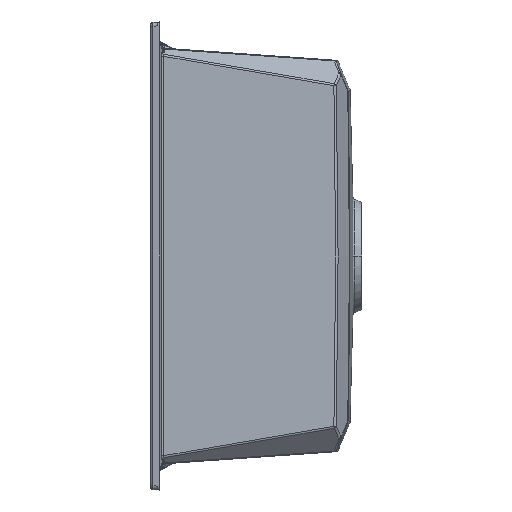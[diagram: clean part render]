
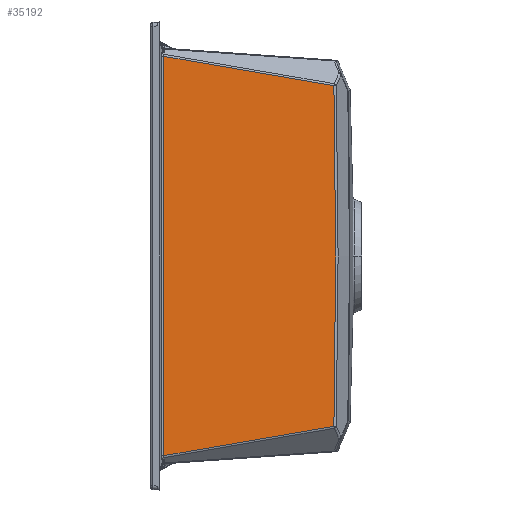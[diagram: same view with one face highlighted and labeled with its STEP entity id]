
A CAD part, left-side view. The second image highlights one B-rep face of the part: STEP entity #35192.
In plain terms, the highlighted planar face has unit normal (-0.998, -0.07, 0).
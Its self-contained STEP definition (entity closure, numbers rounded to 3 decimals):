
#1076 = VERTEX_POINT ( 'NONE', #8817 ) ;
#1368 = VERTEX_POINT ( 'NONE', #9465 ) ;
#3796 = LINE ( 'NONE', #22930, #26097 ) ;
#5487 = DIRECTION ( 'NONE',  ( -0.069, 0.983, -0.17 ) ) ;
#6251 = CARTESIAN_POINT ( 'NONE',  ( 27.019, 9.442, -465. ) ) ;
#6545 = DIRECTION ( 'NONE',  ( 0., 0., -1. ) ) ;
#7100 = AXIS2_PLACEMENT_3D ( 'NONE', #6251, #21026, #17837 ) ;
#7182 = EDGE_CURVE ( 'NONE', #19984, #1076, #3796, .T. ) ;
#7445 = ORIENTED_EDGE ( 'NONE', *, *, #8384, .F. ) ;
#8384 = EDGE_CURVE ( 'NONE', #1368, #19984, #33374, .T. ) ;
#8817 = CARTESIAN_POINT ( 'NONE',  ( 27.994, -4.492, -463.313 ) ) ;
#9465 = CARTESIAN_POINT ( 'NONE',  ( 40.693, -186.099, -68.033 ) ) ;
#10591 = EDGE_CURVE ( 'NONE', #16401, #1368, #30111, .T. ) ;
#11495 = CARTESIAN_POINT ( 'NONE',  ( 40.769, -187.192, -371.318 ) ) ;
#14655 = CARTESIAN_POINT ( 'NONE',  ( 40.769, -187.192, -128.683 ) ) ;
#16401 = VERTEX_POINT ( 'NONE', #22338 ) ;
#16713 = CARTESIAN_POINT ( 'NONE',  ( 40.826, -188.003, -189.339 ) ) ;
#17837 = DIRECTION ( 'NONE',  ( 0.07, -0.998, 0. ) ) ;
#18679 = EDGE_CURVE ( 'NONE', #16401, #1076, #37385, .T. ) ;
#19092 = FACE_OUTER_BOUND ( 'NONE', #20219, .T. ) ;
#19984 = VERTEX_POINT ( 'NONE', #31577 ) ;
#20219 = EDGE_LOOP ( 'NONE', ( #21498, #7445, #35676, #26632 ) ) ;
#21026 = DIRECTION ( 'NONE',  ( -0.998, -0.07, 0. ) ) ;
#21498 = ORIENTED_EDGE ( 'NONE', *, *, #7182, .F. ) ;
#22338 = CARTESIAN_POINT ( 'NONE',  ( 27.994, -4.492, -36.687 ) ) ;
#22930 = CARTESIAN_POINT ( 'NONE',  ( 27.464, 3.091, -464.622 ) ) ;
#23429 = CARTESIAN_POINT ( 'NONE',  ( 40.693, -186.099, -68.033 ) ) ;
#23975 = CARTESIAN_POINT ( 'NONE',  ( 27.994, -4.492, -465. ) ) ;
#25998 = DIRECTION ( 'NONE',  ( 0.069, -0.983, -0.17 ) ) ;
#26071 = CARTESIAN_POINT ( 'NONE',  ( 40.693, -186.099, -431.967 ) ) ;
#26097 = VECTOR ( 'NONE', #5487, 1000. ) ;
#26632 = ORIENTED_EDGE ( 'NONE', *, *, #18679, .T. ) ;
#29078 = CARTESIAN_POINT ( 'NONE',  ( 32.044, -62.41, -46.684 ) ) ;
#30111 = LINE ( 'NONE', #29078, #31465 ) ;
#31465 = VECTOR ( 'NONE', #25998, 1000. ) ;
#31577 = CARTESIAN_POINT ( 'NONE',  ( 40.693, -186.099, -431.967 ) ) ;
#31910 = CARTESIAN_POINT ( 'NONE',  ( 40.826, -188.003, -310.66 ) ) ;
#33374 = B_SPLINE_CURVE_WITH_KNOTS ( 'NONE', 3,
 ( #23429, #14655, #16713, #31910, #11495, #26071 ),
 .UNSPECIFIED., .F., .F.,
 ( 4, 2, 4 ),
 ( 0., 0.5, 1. ),
 .UNSPECIFIED. ) ;
#35192 = ADVANCED_FACE ( 'NONE', ( #19092 ), #35336, .T. ) ;
#35336 = PLANE ( 'NONE',  #7100 ) ;
#35554 = VECTOR ( 'NONE', #6545, 1000. ) ;
#35676 = ORIENTED_EDGE ( 'NONE', *, *, #10591, .F. ) ;
#37385 = LINE ( 'NONE', #23975, #35554 ) ;
